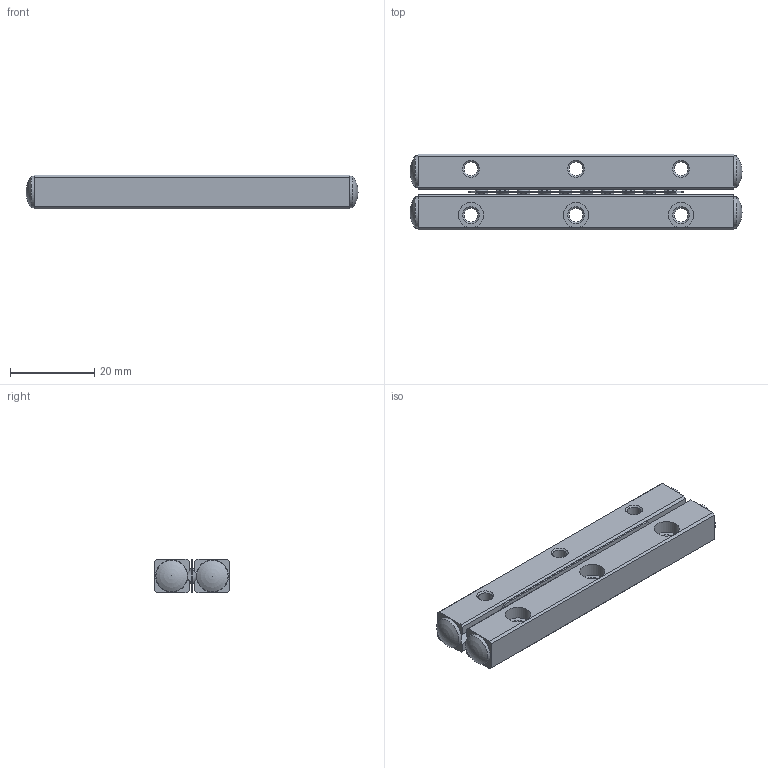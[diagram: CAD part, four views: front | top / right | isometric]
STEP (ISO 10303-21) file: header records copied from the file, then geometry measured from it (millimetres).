
FILE_DESCRIPTION(/* description */ ('Unknown'),/* implementation_level */ '2;1');
FILE_NAME(/* name */ 'VR3-75x10Z',/* time_stamp */ '2025-06-12T09:16:16+08:00',/* author */ ('Unknown'),/* organization */ ('Unknown'),/* preprocessor_version */ 'ST-DEVELOPER v18.102',/* originating_system */ 'Solid Edge',/* authorisation */ 'Unknown');
FILE_SCHEMA (('AUTOMOTIVE_DESIGN {1 0 10303 214 3 1 1}'));
Length unit declared in the file: millimetre
Products named in the file (4): VR3-75x10Z; VR3-75_10Z Roller guide; VR3-75_10Z Roller cage; VR3-75_10Z Roller guide; Top
Assembly tree (3 placements, depth 2):
  VR3-75x10Z
    VR3-75_10Z Roller guide
    VR3-75_10Z Roller cage
    VR3-75_10Z Roller guide; Top
Bounding box: 79 x 18 x 8 mm (x, y, z)
Volume: 9366.3 mm3; surface area: 6822.8 mm2
Topology: 3 solids, 3 shells, 188 faces, 500 edges, 320 vertices
Faces by surface type: plane 126, cone 36, cylinder 22, torus 4
Full cylindrical faces by diameter (mm): 3 x10, 3.3 x6, 6 x6
Entity records: 5595 total; most frequent: DIRECTION 938, CARTESIAN_POINT 930, ORIENTED_EDGE 852, EDGE_CURVE 426, AXIS2_PLACEMENT_3D 320, VERTEX_POINT 312, FACE_BOUND 308, EDGE_LOOP 304
